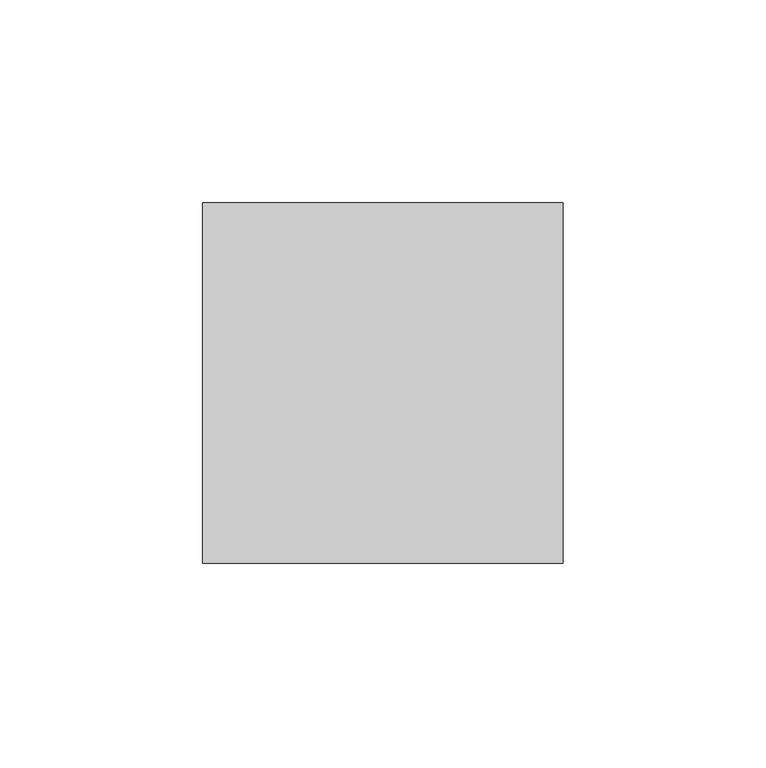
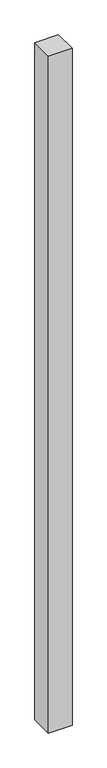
"""IFC4 building model written with IfcOpenShell, lengths in millimetres: column geometry, Trus Joist - TimberStrand LSL - Post Column : TimberStrand® 1.3E – 3 1/2 x 3 1/2”."""

from ifc_helpers import new_model, si_unit, frame, origin, place, context, project, spatial, polyline, outline, extrude, source, transform, mapped, element, save


def column_0aea1348(model_context):
    return source(origin(), model_context, "Body", "SweptSolid", [
        extrude(outline(polyline([(44.45, 44.45), (44.45, -44.45), (-44.45, -44.45), (-44.45, 44.45), (44.45, 44.45)])), frame((0.0, 0.0, 3117.85), z_axis=(0.0, 0.0, 1.0), x_axis=(1.0, 0.0, 0.0)), (0.0, 0.0, 1.0), 2705.1),
    ])


if __name__ == "__main__":
    model = new_model("IFC4")
    model_context = context("Model", 3, world=origin())
    ifc_project = project(units=[si_unit("LENGTHUNIT", "METRE", prefix="MILLI")], contexts=[model_context])
    site = spatial("IfcSite", under=ifc_project)
    building = spatial("IfcBuilding", under=site)
    placement = place(None, origin())
    column_shape = column_0aea1348(model_context)
    element("IfcColumn", 1, ObjectType="Trus Joist - TimberStrand LSL - Post Column : TimberStrand® 1.3E – 3 1/2 x 3 1/2”", at=placement, inside=building, context=model_context, shape_type="MappedRepresentation", body=[
        mapped(column_shape, transform((0.0, 0.0, 0.0), x_axis=(1.0, 0.0, 0.0), y_axis=(0.0, 1.0, 0.0), z_axis=(0.0, 0.0, 1.0))),
    ])
    save(model, "model.ifc")
